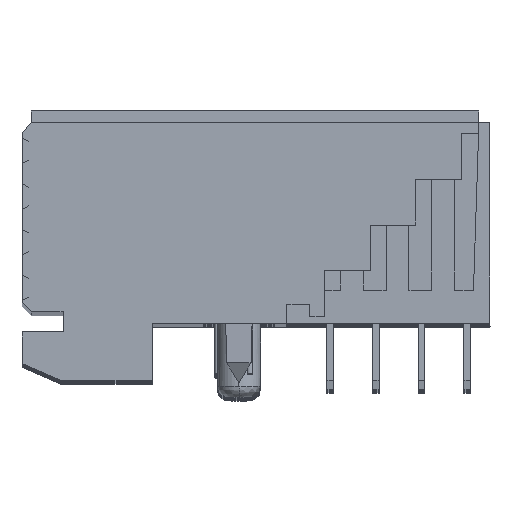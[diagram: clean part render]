
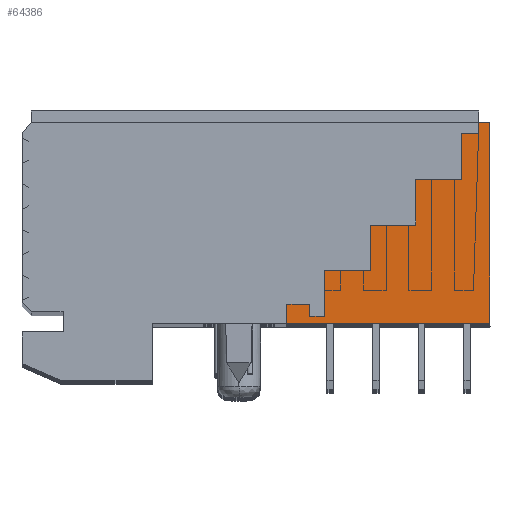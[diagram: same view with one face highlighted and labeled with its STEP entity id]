
A CAD part, top view. The second image highlights one B-rep face of the part: STEP entity #64386.
In plain terms, the highlighted planar face has unit normal (0, 0, 1).
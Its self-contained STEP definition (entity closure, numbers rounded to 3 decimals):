
#7412 = EDGE_LOOP ( 'NONE', ( #20287, #20272, #20249, #20231, #20223, #20216, #20198, #20192, #20171, #20153, #20140, #20124, #20106, #20095, #20069, #20055 ) ) ;
#20055 = ORIENTED_EDGE ( 'NONE', *, *, #150949, .T. ) ;
#20069 = ORIENTED_EDGE ( 'NONE', *, *, #150940, .T. ) ;
#20095 = ORIENTED_EDGE ( 'NONE', *, *, #150932, .T. ) ;
#20106 = ORIENTED_EDGE ( 'NONE', *, *, #150685, .F. ) ;
#20124 = ORIENTED_EDGE ( 'NONE', *, *, #150887, .F. ) ;
#20140 = ORIENTED_EDGE ( 'NONE', *, *, #150976, .T. ) ;
#20153 = ORIENTED_EDGE ( 'NONE', *, *, #150980, .F. ) ;
#20171 = ORIENTED_EDGE ( 'NONE', *, *, #150968, .T. ) ;
#20192 = ORIENTED_EDGE ( 'NONE', *, *, #150849, .F. ) ;
#20198 = ORIENTED_EDGE ( 'NONE', *, *, #150630, .F. ) ;
#20216 = ORIENTED_EDGE ( 'NONE', *, *, #150747, .F. ) ;
#20223 = ORIENTED_EDGE ( 'NONE', *, *, #150926, .T. ) ;
#20231 = ORIENTED_EDGE ( 'NONE', *, *, #150912, .T. ) ;
#20249 = ORIENTED_EDGE ( 'NONE', *, *, #150900, .T. ) ;
#20272 = ORIENTED_EDGE ( 'NONE', *, *, #150962, .T. ) ;
#20287 = ORIENTED_EDGE ( 'NONE', *, *, #150955, .T. ) ;
#33617 = LINE ( 'NONE', #33695, #133283 ) ;
#33695 = CARTESIAN_POINT ( 'NONE',  ( -6.962, 1.56, 12.025 ) ) ;
#33702 = DIRECTION ( 'NONE',  ( 0., -1., 0. ) ) ;
#33849 = LINE ( 'NONE', #33852, #133325 ) ;
#33852 = CARTESIAN_POINT ( 'NONE',  ( 0.438, 10.102, 12.025 ) ) ;
#33855 = DIRECTION ( 'NONE',  ( 0., 1., 0. ) ) ;
#34016 = LINE ( 'NONE', #34019, #133362 ) ;
#34019 = CARTESIAN_POINT ( 'NONE',  ( -6.291, 1.581, 12.025 ) ) ;
#34021 = DIRECTION ( 'NONE',  ( 1., 0., 0. ) ) ;
#34162 = LINE ( 'NONE', #34183, #133416 ) ;
#34183 = CARTESIAN_POINT ( 'NONE',  ( -6.941, 2.121, 12.025 ) ) ;
#34184 = DIRECTION ( 'NONE',  ( 1., 0., 0. ) ) ;
#34218 = LINE ( 'NONE', #34219, #133447 ) ;
#34219 = CARTESIAN_POINT ( 'NONE',  ( 0.959, 10.081, 12.025 ) ) ;
#34220 = DIRECTION ( 'NONE',  ( 1., 0., 0. ) ) ;
#34222 = LINE ( 'NONE', #34293, #133457 ) ;
#34230 = LINE ( 'NONE', #34231, #133455 ) ;
#34231 = CARTESIAN_POINT ( 'NONE',  ( -4.312, 5.581, 12.025 ) ) ;
#34232 = DIRECTION ( 'NONE',  ( 0., -1., 0. ) ) ;
#34241 = LINE ( 'NONE', #34242, #133463 ) ;
#34242 = CARTESIAN_POINT ( 'NONE',  ( -4.312, 3.581, 12.025 ) ) ;
#34243 = DIRECTION ( 'NONE',  ( -1., 0., 0. ) ) ;
#34253 = LINE ( 'NONE', #34254, #133470 ) ;
#34254 = CARTESIAN_POINT ( 'NONE',  ( -6.312, 5.581, 12.025 ) ) ;
#34255 = DIRECTION ( 'NONE',  ( 0., -1., 0. ) ) ;
#34259 = LINE ( 'NONE', #34260, #133475 ) ;
#34260 = CARTESIAN_POINT ( 'NONE',  ( -4.312, 9.581, 12.025 ) ) ;
#34261 = DIRECTION ( 'NONE',  ( -1., 0., 0. ) ) ;
#34265 = LINE ( 'NONE', #34266, #133478 ) ;
#34266 = CARTESIAN_POINT ( 'NONE',  ( -0.312, 5.581, 12.025 ) ) ;
#34267 = DIRECTION ( 'NONE',  ( 0., -1., 0. ) ) ;
#34274 = LINE ( 'NONE', #34275, #133484 ) ;
#34275 = CARTESIAN_POINT ( 'NONE',  ( -4.312, 7.581, 12.025 ) ) ;
#34276 = DIRECTION ( 'NONE',  ( -1., 0., 0. ) ) ;
#34280 = LINE ( 'NONE', #34281, #133489 ) ;
#34281 = CARTESIAN_POINT ( 'NONE',  ( -2.312, 5.581, 12.025 ) ) ;
#34282 = DIRECTION ( 'NONE',  ( 0., -1., 0. ) ) ;
#34286 = LINE ( 'NONE', #34287, #133491 ) ;
#34287 = CARTESIAN_POINT ( 'NONE',  ( -4.312, 5.581, 12.025 ) ) ;
#34288 = DIRECTION ( 'NONE',  ( -1., 0., 0. ) ) ;
#34293 = CARTESIAN_POINT ( 'NONE',  ( -7.962, 5.581, 12.025 ) ) ;
#34294 = DIRECTION ( 'NONE',  ( 0., -1., 0. ) ) ;
#34304 = LINE ( 'NONE', #34305, #133497 ) ;
#34305 = CARTESIAN_POINT ( 'NONE',  ( 0.938, 5.581, 12.025 ) ) ;
#34306 = DIRECTION ( 'NONE',  ( 0., 1., 0. ) ) ;
#34310 = LINE ( 'NONE', #34311, #133499 ) ;
#34311 = CARTESIAN_POINT ( 'NONE',  ( -8.14, 1.281, 12.025 ) ) ;
#34312 = DIRECTION ( 'NONE',  ( -1., 0., 0. ) ) ;
#64386 = ADVANCED_FACE ( 'NONE', ( #108513 ), #108507, .T. ) ;
#108507 = PLANE ( 'NONE',  #172512 ) ;
#108509 = CARTESIAN_POINT ( 'NONE',  ( -4.312, 5.581, 12.025 ) ) ;
#108513 = FACE_OUTER_BOUND ( 'NONE', #7412, .T. ) ;
#108515 = DIRECTION ( 'NONE',  ( 0., 0., 1. ) ) ;
#108516 = DIRECTION ( 'NONE',  ( 1., 0., 0. ) ) ;
#133283 = VECTOR ( 'NONE', #33702, 1000. ) ;
#133325 = VECTOR ( 'NONE', #33855, 1000. ) ;
#133362 = VECTOR ( 'NONE', #34021, 1000. ) ;
#133416 = VECTOR ( 'NONE', #34184, 1000. ) ;
#133447 = VECTOR ( 'NONE', #34220, 1000. ) ;
#133455 = VECTOR ( 'NONE', #34232, 1000. ) ;
#133457 = VECTOR ( 'NONE', #34294, 1000. ) ;
#133463 = VECTOR ( 'NONE', #34243, 1000. ) ;
#133470 = VECTOR ( 'NONE', #34255, 1000. ) ;
#133475 = VECTOR ( 'NONE', #34261, 1000. ) ;
#133478 = VECTOR ( 'NONE', #34267, 1000. ) ;
#133484 = VECTOR ( 'NONE', #34276, 1000. ) ;
#133489 = VECTOR ( 'NONE', #34282, 1000. ) ;
#133491 = VECTOR ( 'NONE', #34288, 1000. ) ;
#133497 = VECTOR ( 'NONE', #34306, 1000. ) ;
#133499 = VECTOR ( 'NONE', #34312, 1000. ) ;
#150630 = EDGE_CURVE ( 'NONE', #204077, #204045, #33617, .T. ) ;
#150685 = EDGE_CURVE ( 'NONE', #203991, #203978, #33849, .T. ) ;
#150747 = EDGE_CURVE ( 'NONE', #204045, #203894, #34016, .T. ) ;
#150849 = EDGE_CURVE ( 'NONE', #203812, #204077, #34162, .T. ) ;
#150887 = EDGE_CURVE ( 'NONE', #203978, #203799, #34218, .T. ) ;
#150900 = EDGE_CURVE ( 'NONE', #203832, #203758, #34230, .T. ) ;
#150912 = EDGE_CURVE ( 'NONE', #203758, #203735, #34241, .T. ) ;
#150926 = EDGE_CURVE ( 'NONE', #203735, #203894, #34253, .T. ) ;
#150932 = EDGE_CURVE ( 'NONE', #203991, #203749, #34259, .T. ) ;
#150940 = EDGE_CURVE ( 'NONE', #203749, #203739, #34265, .T. ) ;
#150949 = EDGE_CURVE ( 'NONE', #203739, #203730, #34274, .T. ) ;
#150955 = EDGE_CURVE ( 'NONE', #203730, #203720, #34280, .T. ) ;
#150962 = EDGE_CURVE ( 'NONE', #203720, #203832, #34286, .T. ) ;
#150968 = EDGE_CURVE ( 'NONE', #203812, #203707, #34222, .T. ) ;
#150976 = EDGE_CURVE ( 'NONE', #203753, #203799, #34304, .T. ) ;
#150980 = EDGE_CURVE ( 'NONE', #203753, #203707, #34310, .T. ) ;
#172512 = AXIS2_PLACEMENT_3D ( 'NONE', #108509, #108515, #108516 ) ;
#203707 = VERTEX_POINT ( 'NONE', #233566 ) ;
#203720 = VERTEX_POINT ( 'NONE', #233571 ) ;
#203730 = VERTEX_POINT ( 'NONE', #233573 ) ;
#203735 = VERTEX_POINT ( 'NONE', #233560 ) ;
#203739 = VERTEX_POINT ( 'NONE', #233574 ) ;
#203749 = VERTEX_POINT ( 'NONE', #233580 ) ;
#203753 = VERTEX_POINT ( 'NONE', #233581 ) ;
#203758 = VERTEX_POINT ( 'NONE', #233583 ) ;
#203799 = VERTEX_POINT ( 'NONE', #233597 ) ;
#203812 = VERTEX_POINT ( 'NONE', #233601 ) ;
#203832 = VERTEX_POINT ( 'NONE', #233606 ) ;
#203894 = VERTEX_POINT ( 'NONE', #233627 ) ;
#203978 = VERTEX_POINT ( 'NONE', #233646 ) ;
#203991 = VERTEX_POINT ( 'NONE', #233660 ) ;
#204045 = VERTEX_POINT ( 'NONE', #233678 ) ;
#204077 = VERTEX_POINT ( 'NONE', #233679 ) ;
#233560 = CARTESIAN_POINT ( 'NONE',  ( -6.312, 3.581, 12.025 ) ) ;
#233566 = CARTESIAN_POINT ( 'NONE',  ( -7.962, 1.281, 12.025 ) ) ;
#233571 = CARTESIAN_POINT ( 'NONE',  ( -2.312, 5.581, 12.025 ) ) ;
#233573 = CARTESIAN_POINT ( 'NONE',  ( -2.312, 7.581, 12.025 ) ) ;
#233574 = CARTESIAN_POINT ( 'NONE',  ( -0.312, 7.581, 12.025 ) ) ;
#233580 = CARTESIAN_POINT ( 'NONE',  ( -0.312, 9.581, 12.025 ) ) ;
#233581 = CARTESIAN_POINT ( 'NONE',  ( 0.938, 1.281, 12.025 ) ) ;
#233583 = CARTESIAN_POINT ( 'NONE',  ( -4.312, 3.581, 12.025 ) ) ;
#233597 = CARTESIAN_POINT ( 'NONE',  ( 0.938, 10.081, 12.025 ) ) ;
#233601 = CARTESIAN_POINT ( 'NONE',  ( -7.962, 2.121, 12.025 ) ) ;
#233606 = CARTESIAN_POINT ( 'NONE',  ( -4.312, 5.581, 12.025 ) ) ;
#233627 = CARTESIAN_POINT ( 'NONE',  ( -6.312, 1.581, 12.025 ) ) ;
#233646 = CARTESIAN_POINT ( 'NONE',  ( 0.438, 10.081, 12.025 ) ) ;
#233660 = CARTESIAN_POINT ( 'NONE',  ( 0.438, 9.581, 12.025 ) ) ;
#233678 = CARTESIAN_POINT ( 'NONE',  ( -6.962, 1.581, 12.025 ) ) ;
#233679 = CARTESIAN_POINT ( 'NONE',  ( -6.962, 2.121, 12.025 ) ) ;
